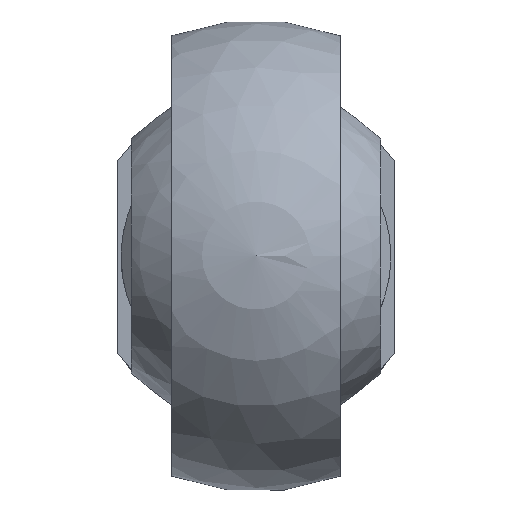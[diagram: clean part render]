
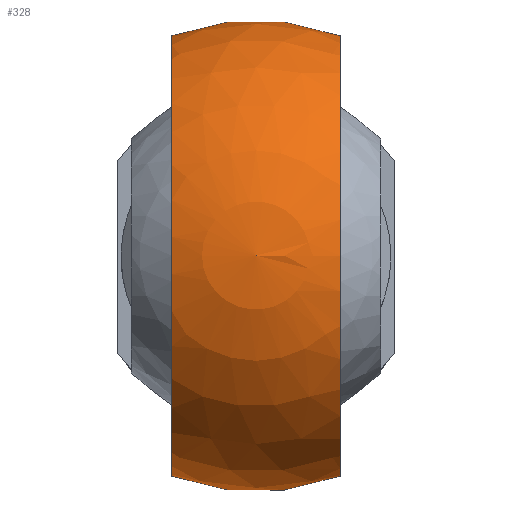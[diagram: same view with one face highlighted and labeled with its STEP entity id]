
A CAD part, top view. The second image highlights one B-rep face of the part: STEP entity #328.
In plain terms, the highlighted spherical face has radius 35 mm.
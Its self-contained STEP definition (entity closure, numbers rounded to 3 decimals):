
#22=SPHERICAL_SURFACE('',#395,35.);
#87=FACE_OUTER_BOUND('',#124,.T.);
#124=EDGE_LOOP('',(#279,#280,#281,#282));
#143=CIRCLE('',#384,32.692);
#144=CIRCLE('',#388,32.692);
#145=CIRCLE('',#390,30.569);
#149=CIRCLE('',#396,30.569);
#171=VERTEX_POINT('',#571);
#172=VERTEX_POINT('',#575);
#175=VERTEX_POINT('',#586);
#176=VERTEX_POINT('',#590);
#204=EDGE_CURVE('',#172,#171,#143,.T.);
#209=EDGE_CURVE('',#176,#175,#144,.T.);
#211=EDGE_CURVE('',#172,#175,#145,.T.);
#215=EDGE_CURVE('',#176,#171,#149,.T.);
#279=ORIENTED_EDGE('',*,*,#209,.T.);
#280=ORIENTED_EDGE('',*,*,#211,.F.);
#281=ORIENTED_EDGE('',*,*,#204,.T.);
#282=ORIENTED_EDGE('',*,*,#215,.F.);
#328=ADVANCED_FACE('',(#87),#22,.T.);
#384=AXIS2_PLACEMENT_3D('',#576,#476,#477);
#388=AXIS2_PLACEMENT_3D('',#591,#485,#486);
#390=AXIS2_PLACEMENT_3D('',#596,#489,#490);
#395=AXIS2_PLACEMENT_3D('',#602,#499,#500);
#396=AXIS2_PLACEMENT_3D('',#603,#501,#502);
#476=DIRECTION('center_axis',(-1.,0.,0.));
#477=DIRECTION('ref_axis',(0.,0.,-1.));
#485=DIRECTION('center_axis',(1.,0.,0.));
#486=DIRECTION('ref_axis',(0.,0.,1.));
#489=DIRECTION('center_axis',(0.,0.,-1.));
#490=DIRECTION('ref_axis',(-1.,0.,0.));
#499=DIRECTION('center_axis',(0.,0.,1.));
#500=DIRECTION('ref_axis',(1.,0.,0.));
#501=DIRECTION('center_axis',(0.,0.,-1.));
#502=DIRECTION('ref_axis',(-1.,0.,0.));
#571=CARTESIAN_POINT('',(12.5,27.897,92.955));
#575=CARTESIAN_POINT('',(12.5,-27.897,92.955));
#576=CARTESIAN_POINT('Origin',(12.5,0.,110.));
#586=CARTESIAN_POINT('',(-12.5,-27.897,92.955));
#590=CARTESIAN_POINT('',(-12.5,27.897,92.955));
#591=CARTESIAN_POINT('Origin',(-12.5,0.,110.));
#596=CARTESIAN_POINT('Origin',(0.,0.,92.955));
#602=CARTESIAN_POINT('Origin',(0.,0.,110.));
#603=CARTESIAN_POINT('Origin',(0.,0.,92.955));
